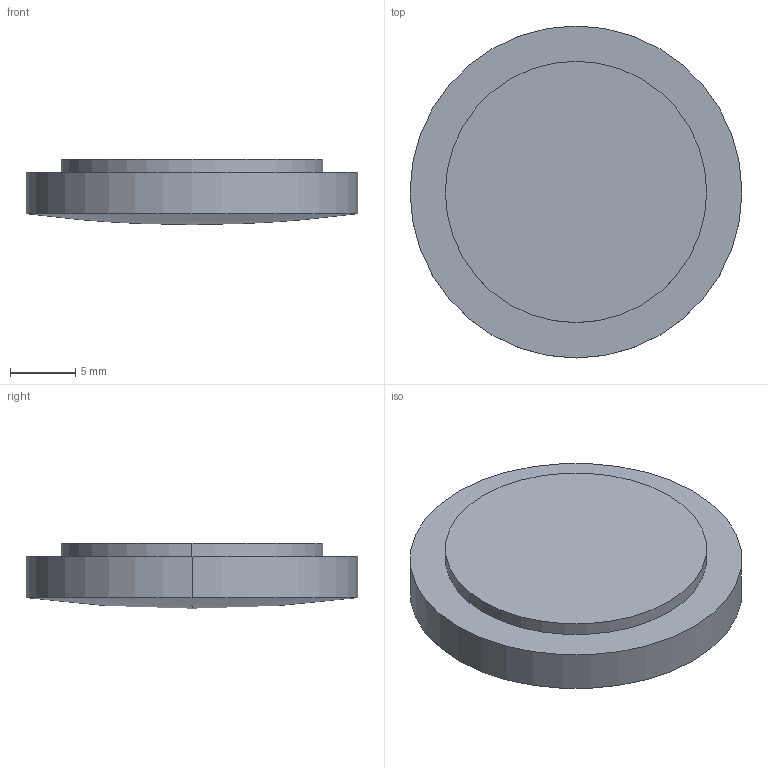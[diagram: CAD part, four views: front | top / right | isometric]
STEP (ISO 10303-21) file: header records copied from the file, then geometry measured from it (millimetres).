
FILE_DESCRIPTION(('STEP AP214'),'1');
FILE_NAME('LL-25-140.STEP','2020-03-09T17:41:08',(' '),(' '),'Spatial InterOp 3D',' ',' ');
FILE_SCHEMA(('AUTOMOTIVE_DESIGN { 1 0 10303 214 1 1 1 1 }'));
Length unit declared in the file: millimetre
Products named in the file (1): 1
Bounding box: 25.4 x 25.4 x 5 mm (x, y, z)
Volume: 2128.4 mm3; surface area: 1958.9 mm2
Topology: 2 solids, 2 shells, 9 faces, 16 edges, 9 vertices
Faces by surface type: cylinder 4, plane 3, sphere 2
Entity records: 229 total; most frequent: DIRECTION 46, CARTESIAN_POINT 34, ORIENTED_EDGE 28, AXIS2_PLACEMENT_3D 21, EDGE_CURVE 14, CIRCLE 10, ADVANCED_FACE 9, FACE_OUTER_BOUND 9
